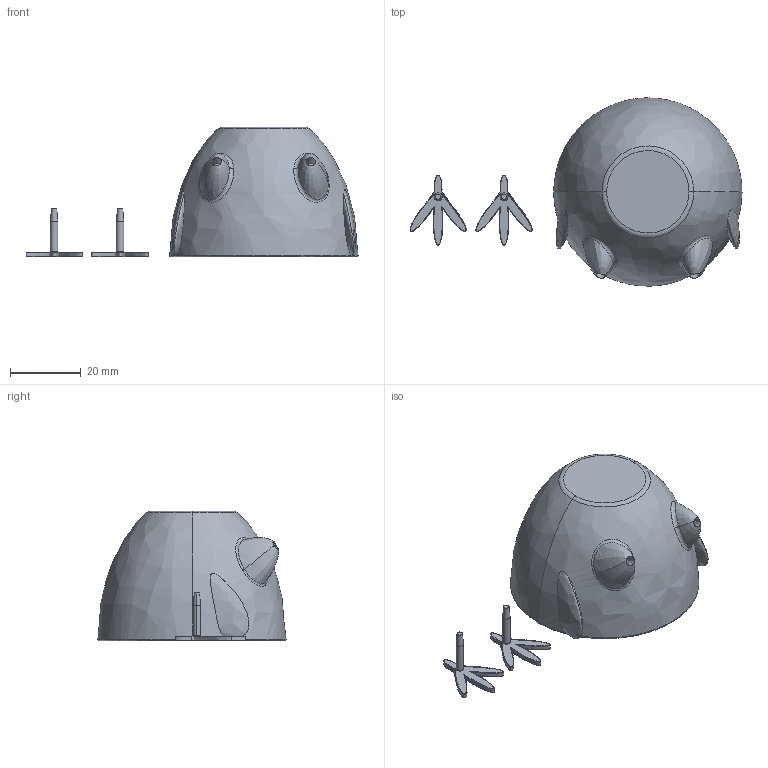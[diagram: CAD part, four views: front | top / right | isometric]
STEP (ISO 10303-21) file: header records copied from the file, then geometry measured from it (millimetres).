
FILE_DESCRIPTION(/* description */ (''),/* implementation_level */ '2;1');
FILE_NAME(/* name */ 'GGKOPP~1',/* time_stamp */ '2013-03-28T16:01:55+01:00',/* author */ (''),/* organization */ (''),/* preprocessor_version */ 'ST-DEVELOPER v15',/* originating_system */ '',/* authorisation */ '');
FILE_SCHEMA (('AUTOMOTIVE_DESIGN'));
Length unit declared in the file: millimetre
Products named in the file (1): Document
Bounding box: 93.58 x 53.06 x 36.57 mm (x, y, z)
Volume: 30605.4 mm3; surface area: 11605.3 mm2
Topology: 3 solids, 3 shells, 76 faces, 158 edges, 90 vertices
Faces by surface type: bspline 66, plane 10
Entity records: 8071 total; most frequent: CARTESIAN_POINT 7174, ORIENTED_EDGE 308, EDGE_CURVE 154, VERTEX_POINT 90, EDGE_LOOP 82, ADVANCED_FACE 76, FACE_OUTER_BOUND 76, B_SPLINE_CURVE_WITH_KNOTS 40
